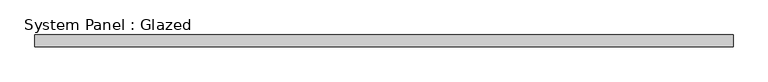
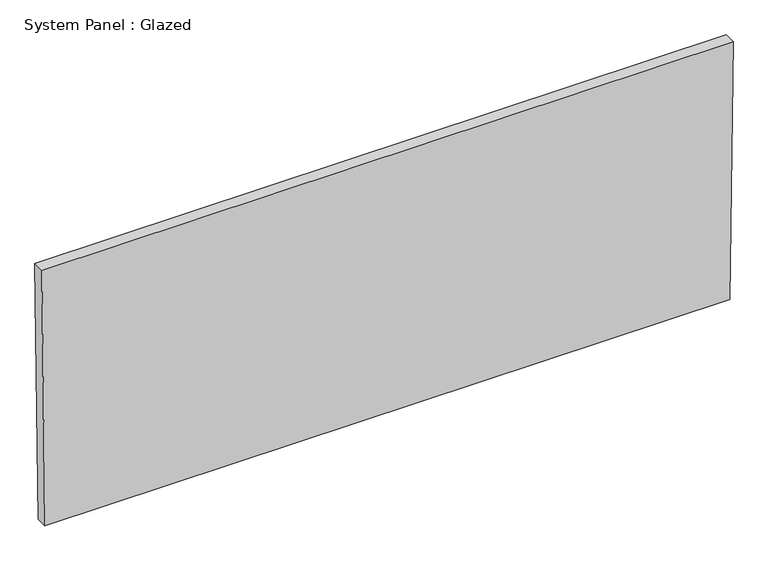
"""IFC4 building model written with IfcOpenShell, lengths in millimetres: plate geometry, System Panel : Glazed."""

from ifc_helpers import new_model, si_unit, frame, origin, place, context, project, spatial, polyline, outline, extrude, source, transform, mapped, element, save


def system_panel_glazed_ce80fa85(model_context):
    return source(origin(), model_context, "Body", "SweptSolid", [
        extrude(outline(polyline([(0.0, -736.8236907), (0.0, 736.8236907), (584.1562589, 743.8219444), (584.1562589, -743.8219444), (0.0, -736.8236907)])), frame((0.0, -44.45, 0.0), z_axis=(0.0, 1.0, 0.0), x_axis=(0.0, 0.0, 1.0)), (0.0, 0.0, 1.0), 25.4),
    ])


if __name__ == "__main__":
    model = new_model("IFC4")
    model_context = context("Model", 3, world=origin())
    ifc_project = project(units=[si_unit("LENGTHUNIT", "METRE", prefix="MILLI")], contexts=[model_context])
    site = spatial("IfcSite", under=ifc_project)
    building = spatial("IfcBuilding", under=site)
    placement = place(None, origin())
    system_panel_glazed_shape = system_panel_glazed_ce80fa85(model_context)
    element("IfcPlate", 1, ObjectType="System Panel : Glazed", at=placement, inside=building, context=model_context, shape_type="MappedRepresentation", body=[
        mapped(system_panel_glazed_shape, transform((0.0, 0.0, 0.0), x_axis=(1.0, 0.0, 0.0), y_axis=(0.0, 1.0, 0.0), z_axis=(0.0, 0.0, 1.0))),
    ])
    save(model, "model.ifc")
